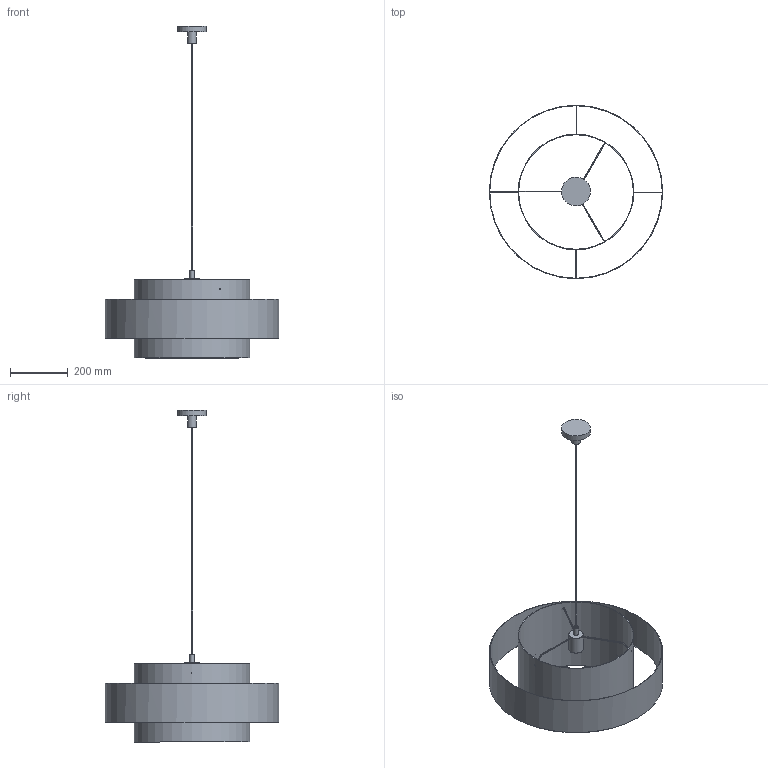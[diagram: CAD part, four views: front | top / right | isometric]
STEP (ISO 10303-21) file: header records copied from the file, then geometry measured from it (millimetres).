
FILE_DESCRIPTION(/* description */ (''),/* implementation_level */ '2;1');
FILE_NAME(/* name */ 'D:\TK Lighting\CALISTO\Calisto 4376.stp',/* time_stamp */ '2020-11-23T08:34:58+01:00',/* author */ ('Admin'),/* organization */ (''),/* preprocessor_version */ 'ST-DEVELOPER v16.5',/* originating_system */ 'Autodesk Inventor 2017',/* authorisation */ '');
FILE_SCHEMA (('AUTOMOTIVE_DESIGN { 1 0 10303 214 3 1 1 }'));
Length unit declared in the file: millimetre
Products named in the file (3): Calisto 4376; klosz 4376; Zawiesie 4376
Assembly tree (2 placements, depth 2):
  Calisto 4376
    klosz 4376
    Zawiesie 4376
Bounding box: 600 x 600 x 1149 mm (x, y, z)
Volume: 1122088.6 mm3; surface area: 1265378.9 mm2
Topology: 3 solids, 3 shells, 89 faces, 223 edges, 144 vertices
Faces by surface type: plane 65, cylinder 20, sphere 2, torus 2
Full cylindrical faces by diameter (mm): 5 x1, 15 x1, 30 x1, 47 x1, 50 x1, 100 x1, 397 x1, 400 x1, 597 x1, 600 x1
Entity records: 2834 total; most frequent: CARTESIAN_POINT 506, DIRECTION 458, ORIENTED_EDGE 430, EDGE_CURVE 212, AXIS2_PLACEMENT_3D 158, VERTEX_POINT 144, LINE 142, VECTOR 142
